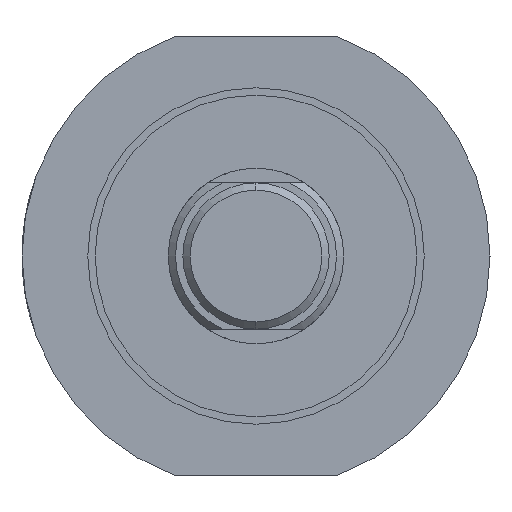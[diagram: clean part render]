
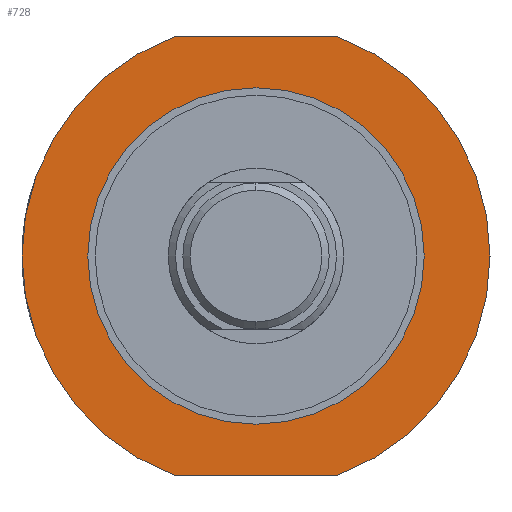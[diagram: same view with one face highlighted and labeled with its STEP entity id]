
A CAD part, left-side view. The second image highlights one B-rep face of the part: STEP entity #728.
In plain terms, the highlighted planar face has unit normal (-1, 0, 0).
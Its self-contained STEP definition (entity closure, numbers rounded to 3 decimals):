
#1 = VERTEX_POINT ( 'NONE', #803 ) ;
#5 = DIRECTION ( 'NONE',  ( 0., 0., -1. ) ) ;
#9 = ORIENTED_EDGE ( 'NONE', *, *, #661, .F. ) ;
#104 = VECTOR ( 'NONE', #1524, 1000. ) ;
#135 = CARTESIAN_POINT ( 'NONE',  ( 92., -5.568, 15. ) ) ;
#159 = VERTEX_POINT ( 'NONE', #1015 ) ;
#178 = EDGE_LOOP ( 'NONE', ( #260, #1131, #180, #9 ) ) ;
#180 = ORIENTED_EDGE ( 'NONE', *, *, #582, .T. ) ;
#253 = VERTEX_POINT ( 'NONE', #1040 ) ;
#257 = FACE_OUTER_BOUND ( 'NONE', #178, .T. ) ;
#260 = ORIENTED_EDGE ( 'NONE', *, *, #532, .T. ) ;
#306 = CARTESIAN_POINT ( 'NONE',  ( 92., 0., 0. ) ) ;
#308 = CARTESIAN_POINT ( 'NONE',  ( 92., 0., 0. ) ) ;
#314 = VERTEX_POINT ( 'NONE', #135 ) ;
#315 = CARTESIAN_POINT ( 'NONE',  ( 92., 0., -16. ) ) ;
#323 = AXIS2_PLACEMENT_3D ( 'NONE', #1597, #988, #1324 ) ;
#369 = CIRCLE ( 'NONE', #323, 16. ) ;
#452 = AXIS2_PLACEMENT_3D ( 'NONE', #308, #1484, #1203 ) ;
#463 = PLANE ( 'NONE',  #1093 ) ;
#532 = EDGE_CURVE ( 'NONE', #1595, #253, #369, .T. ) ;
#582 = EDGE_CURVE ( 'NONE', #159, #314, #1480, .T. ) ;
#593 = DIRECTION ( 'NONE',  ( 0., 0., 1. ) ) ;
#611 = CARTESIAN_POINT ( 'NONE',  ( 92., 11.874, -15. ) ) ;
#617 = VECTOR ( 'NONE', #1200, 1000. ) ;
#648 = EDGE_LOOP ( 'NONE', ( #1109, #770 ) ) ;
#660 = EDGE_CURVE ( 'NONE', #1, #878, #948, .T. ) ;
#661 = EDGE_CURVE ( 'NONE', #1595, #314, #1396, .T. ) ;
#671 = CARTESIAN_POINT ( 'NONE',  ( 92., 0., 11.5 ) ) ;
#681 = EDGE_CURVE ( 'NONE', #878, #1, #726, .T. ) ;
#726 = CIRCLE ( 'NONE', #452, 11.5 ) ;
#728 = ADVANCED_FACE ( 'NONE', ( #1428, #257 ), #463, .F. ) ;
#770 = ORIENTED_EDGE ( 'NONE', *, *, #660, .F. ) ;
#779 = DIRECTION ( 'NONE',  ( -1., 0., 0. ) ) ;
#803 = CARTESIAN_POINT ( 'NONE',  ( 92., 0., -11.5 ) ) ;
#878 = VERTEX_POINT ( 'NONE', #671 ) ;
#948 = CIRCLE ( 'NONE', #1138, 11.5 ) ;
#988 = DIRECTION ( 'NONE',  ( -1., 0., 0. ) ) ;
#1015 = CARTESIAN_POINT ( 'NONE',  ( 92., -5.568, -15. ) ) ;
#1040 = CARTESIAN_POINT ( 'NONE',  ( 92., 5.568, -15. ) ) ;
#1087 = EDGE_CURVE ( 'NONE', #159, #253, #1308, .T. ) ;
#1093 = AXIS2_PLACEMENT_3D ( 'NONE', #315, #1536, #5 ) ;
#1109 = ORIENTED_EDGE ( 'NONE', *, *, #681, .F. ) ;
#1131 = ORIENTED_EDGE ( 'NONE', *, *, #1087, .F. ) ;
#1138 = AXIS2_PLACEMENT_3D ( 'NONE', #306, #1530, #593 ) ;
#1200 = DIRECTION ( 'NONE',  ( 0., -1., 0. ) ) ;
#1203 = DIRECTION ( 'NONE',  ( 0., 0., 1. ) ) ;
#1210 = CARTESIAN_POINT ( 'NONE',  ( 92., 0., 0. ) ) ;
#1228 = CARTESIAN_POINT ( 'NONE',  ( 92., 11.874, 15. ) ) ;
#1274 = AXIS2_PLACEMENT_3D ( 'NONE', #1210, #779, #1511 ) ;
#1307 = CARTESIAN_POINT ( 'NONE',  ( 92., 5.568, 15. ) ) ;
#1308 = LINE ( 'NONE', #611, #104 ) ;
#1324 = DIRECTION ( 'NONE',  ( 0., 0., 1. ) ) ;
#1396 = LINE ( 'NONE', #1228, #617 ) ;
#1428 = FACE_BOUND ( 'NONE', #648, .T. ) ;
#1480 = CIRCLE ( 'NONE', #1274, 16. ) ;
#1484 = DIRECTION ( 'NONE',  ( -1., 0., 0. ) ) ;
#1511 = DIRECTION ( 'NONE',  ( 0., 0., 1. ) ) ;
#1524 = DIRECTION ( 'NONE',  ( 0., 1., 0. ) ) ;
#1530 = DIRECTION ( 'NONE',  ( -1., 0., 0. ) ) ;
#1536 = DIRECTION ( 'NONE',  ( 1., 0., 0. ) ) ;
#1595 = VERTEX_POINT ( 'NONE', #1307 ) ;
#1597 = CARTESIAN_POINT ( 'NONE',  ( 92., 0., 0. ) ) ;
